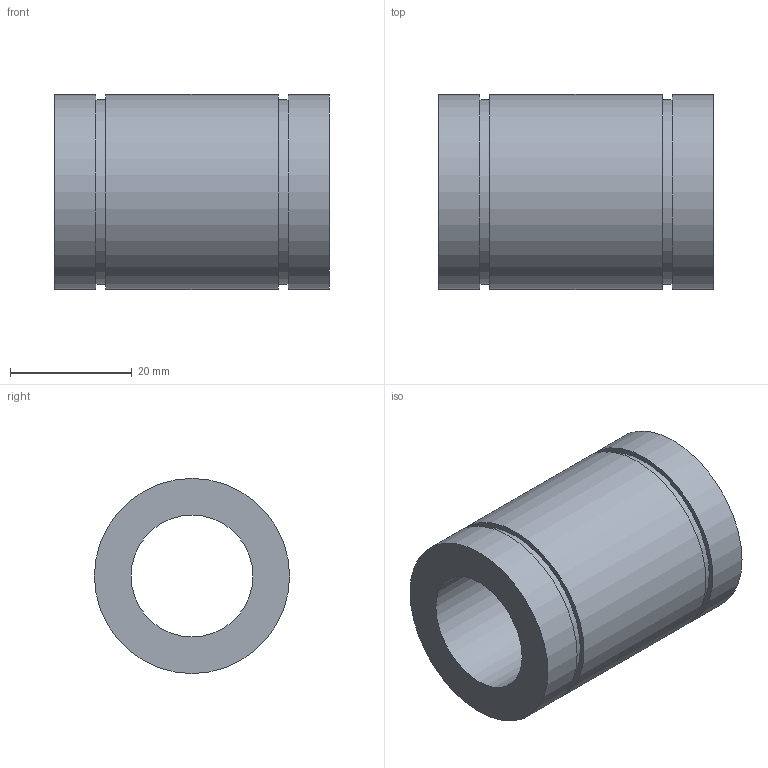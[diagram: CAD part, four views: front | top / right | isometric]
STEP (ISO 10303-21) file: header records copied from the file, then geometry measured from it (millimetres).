
FILE_DESCRIPTION( ( 'STEP AP203' ), '1' );
FILE_NAME( 'p:/temp/worker_93/temp/exporttempdir_3184_465_KxmlX/format_0/LME20UU.stp', '2020-04-29T03:06:58', ( 'License CC BY-ND 4.0' ), ( 'CADENAS' ), ' ', 'PARTsolutions', ' ' );
FILE_SCHEMA( ( 'CONFIG_CONTROL_DESIGN' ) );
Length unit declared in the file: millimetre
Products named in the file (1): _LME20UU
Bounding box: 45 x 32 x 32 mm (x, y, z)
Volume: 21787.8 mm3; surface area: 8647.1 mm2
Topology: 1 solids, 1 shells, 12 faces, 18 edges, 12 vertices
Faces by surface type: plane 6, cylinder 6
Full cylindrical faces by diameter (mm): 20 x1, 30.3 x2, 32 x3
Entity records: 292 total; most frequent: DIRECTION 50, CARTESIAN_POINT 37, AXIS2_PLACEMENT_3D 25, EDGE_LOOP 24, ORIENTED_EDGE 24, FACE_OUTER_BOUND 18, ADVANCED_FACE 12, EDGE_CURVE 12
